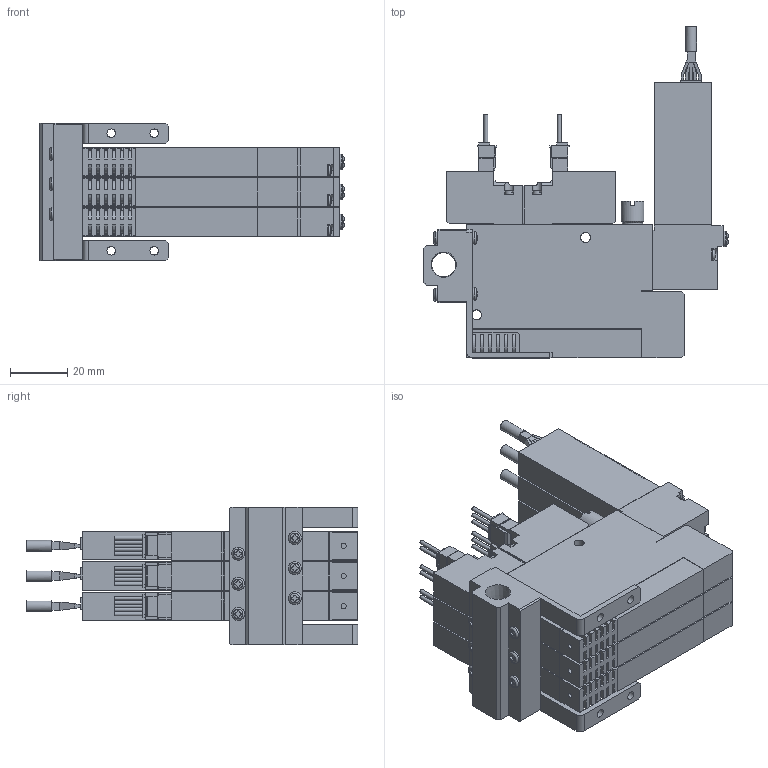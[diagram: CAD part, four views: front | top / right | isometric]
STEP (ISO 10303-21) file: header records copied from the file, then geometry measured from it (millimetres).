
FILE_DESCRIPTION(('STEP AP203'),'1');
FILE_NAME('5WS303_3D.stp','2024-09-04T09:41:46',(' '),(' '),'Spatial InterOp 3D',' ',' ');
FILE_SCHEMA(('CONFIG_CONTROL_DESIGN'));
Length unit declared in the file: millimetre
Products named in the file (5): BSC1M※※V9※5WS303; Solenoid valve W; Pressure Sensor V9; Unit-S; BaseMS30R
Assembly tree (10 placements, depth 2):
  BSC1M※※V9※5WS303
    Solenoid valve W  x3
    Pressure Sensor V9  x3
    Unit-S  x3
    BaseMS30R
Bounding box: 106.35 x 115.8 x 48 mm (x, y, z)
Volume: 181525.8 mm3; surface area: 72690.6 mm2
Topology: 10 solids, 10 shells, 1625 faces, 4455 edges, 2944 vertices
Faces by surface type: plane 1204, cylinder 366, sphere 19, torus 19, cone 17
Full cylindrical faces by diameter (mm): 1.4 x15, 1.8 x3, 2.5 x6, 3 x16, 3.5 x24, 3.8 x3, 4 x3, 4.134 x6, 4.5 x10, 5.5 x6, 7 x3, 7.7 x3, 8 x3, 8.422 x1
Entity records: 21366 total; most frequent: CARTESIAN_POINT 4551, ORIENTED_EDGE 3384, DIRECTION 3338, EDGE_CURVE 1692, LINE 1244, VECTOR 1244, VERTEX_POINT 1162, AXIS2_PLACEMENT_3D 1047
